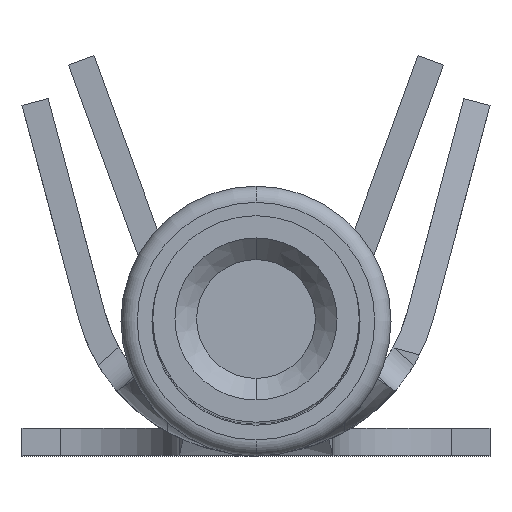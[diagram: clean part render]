
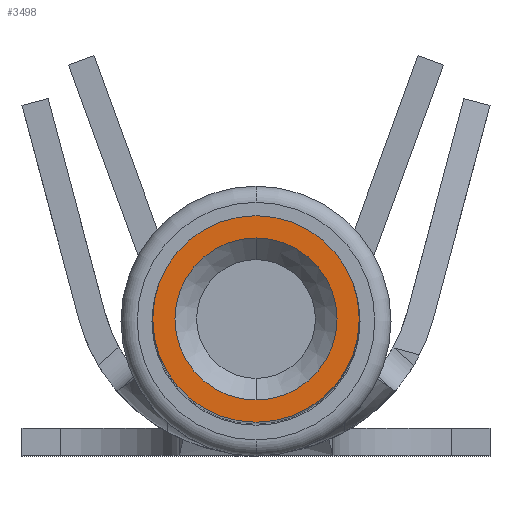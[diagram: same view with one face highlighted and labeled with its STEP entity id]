
A CAD part, top view. The second image highlights one B-rep face of the part: STEP entity #3498.
In plain terms, the highlighted planar face has unit normal (0, 0, 1).
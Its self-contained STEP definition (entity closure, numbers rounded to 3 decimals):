
#192=CARTESIAN_POINT('',(0.,0.,0.));
#193=DIRECTION('',(0.,0.,1.));
#194=DIRECTION('',(0.,1.,0.));
#195=AXIS2_PLACEMENT_3D('',#192,#193,#194);
#197=CARTESIAN_POINT('',(0.,0.,0.));
#198=DIRECTION('',(0.,0.,-1.));
#199=DIRECTION('',(0.,1.,0.));
#200=AXIS2_PLACEMENT_3D('',#197,#198,#199);
#202=CARTESIAN_POINT('',(0.,0.,0.));
#203=DIRECTION('',(0.,0.,-1.));
#204=DIRECTION('',(0.,1.,0.));
#205=AXIS2_PLACEMENT_3D('',#202,#203,#204);
#215=CARTESIAN_POINT('',(0.,0.,0.));
#216=DIRECTION('',(0.,0.,1.));
#217=DIRECTION('',(0.,1.,0.));
#218=AXIS2_PLACEMENT_3D('',#215,#216,#217);
#3010=CARTESIAN_POINT('',(0.,0.972,0.));
#3012=VERTEX_POINT('',#3010);
#3018=CARTESIAN_POINT('',(0.,-0.972,0.));
#3020=VERTEX_POINT('',#3018);
#3035=CARTESIAN_POINT('',(0.,0.762,0.));
#3037=VERTEX_POINT('',#3035);
#3039=CARTESIAN_POINT('',(0.,-0.762,0.));
#3041=VERTEX_POINT('',#3039);
#3483=CARTESIAN_POINT('',(0.,0.,0.));
#3484=DIRECTION('',(0.,0.,-1.));
#3485=DIRECTION('',(0.,-1.,0.));
#3486=AXIS2_PLACEMENT_3D('',#3483,#3484,#3485);
#3487=PLANE('',#3486);
#3488=ORIENTED_EDGE('',*,*,#3476,.F.);
#3489=ORIENTED_EDGE('',*,*,#3465,.T.);
#3490=EDGE_LOOP('',(#3488,#3489));
#3491=FACE_OUTER_BOUND('',#3490,.F.);
#3493=ORIENTED_EDGE('',*,*,#3492,.F.);
#3495=ORIENTED_EDGE('',*,*,#3494,.T.);
#3496=EDGE_LOOP('',(#3493,#3495));
#3497=FACE_BOUND('',#3496,.F.);
#196=CIRCLE('',#195,0.972);
#201=CIRCLE('',#200,0.972);
#206=CIRCLE('',#205,0.762);
#219=CIRCLE('',#218,0.762);
#3465=EDGE_CURVE('',#3012,#3020,#201,.T.);
#3476=EDGE_CURVE('',#3012,#3020,#196,.T.);
#3492=EDGE_CURVE('',#3037,#3041,#206,.T.);
#3494=EDGE_CURVE('',#3037,#3041,#219,.T.);
#3498=ADVANCED_FACE('',(#3491,#3497),#3487,.F.);
